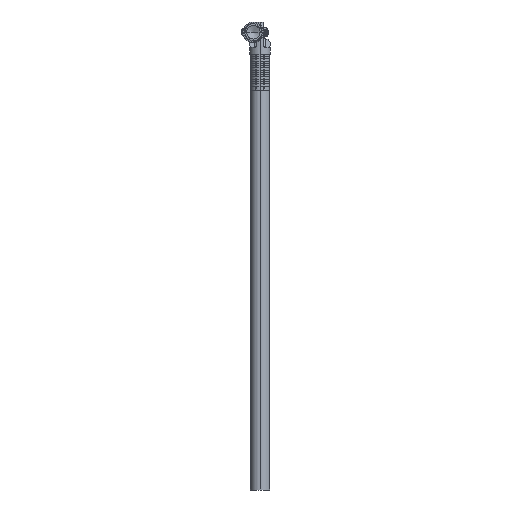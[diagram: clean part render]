
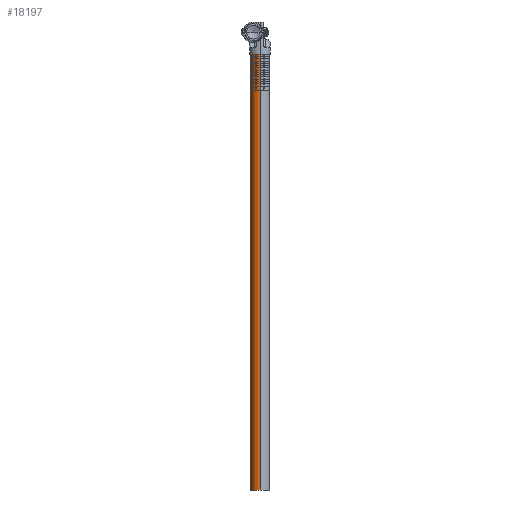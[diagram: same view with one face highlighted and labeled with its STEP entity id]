
A CAD part, left-side view. The second image highlights one B-rep face of the part: STEP entity #18197.
In plain terms, the highlighted cylindrical face has radius 13.716 mm (diameter 27.432 mm), a partial arc.
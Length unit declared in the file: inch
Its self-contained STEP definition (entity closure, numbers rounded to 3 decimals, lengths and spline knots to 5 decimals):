
#254 = CARTESIAN_POINT ( 'NONE',  ( 0., 0., 0.54 ) ) ;
#417 = DIRECTION ( 'NONE',  ( 0., 0., -1. ) ) ;
#443 = DIRECTION ( 'NONE',  ( 1., 0., 0. ) ) ;
#450 = CARTESIAN_POINT ( 'NONE',  ( 0., 0., 0. ) ) ;
#1738 = VECTOR ( 'NONE', #13916, 39.37008 ) ;
#1871 = CARTESIAN_POINT ( 'NONE',  ( 0., 0., 0.54 ) ) ;
#3181 = VERTEX_POINT ( 'NONE', #7608 ) ;
#5488 = CIRCLE ( 'NONE', #11074, 0.54 ) ;
#7118 = LINE ( 'NONE', #11035, #17057 ) ;
#7416 = DIRECTION ( 'NONE',  ( 1., 0., 0. ) ) ;
#7608 = CARTESIAN_POINT ( 'NONE',  ( 0., 0., -0.54 ) ) ;
#8226 = VERTEX_POINT ( 'NONE', #13894 ) ;
#9118 = EDGE_CURVE ( 'NONE', #3181, #10667, #5488, .T. ) ;
#9558 = DIRECTION ( 'NONE',  ( 0., 0., -1. ) ) ;
#10456 = EDGE_CURVE ( 'NONE', #8226, #15770, #14163, .T. ) ;
#10667 = VERTEX_POINT ( 'NONE', #254 ) ;
#11035 = CARTESIAN_POINT ( 'NONE',  ( 0., 0., -0.54 ) ) ;
#11074 = AXIS2_PLACEMENT_3D ( 'NONE', #450, #443, #417 ) ;
#12055 = CARTESIAN_POINT ( 'NONE',  ( -24., 0., 0.54 ) ) ;
#13065 = CYLINDRICAL_SURFACE ( 'NONE', #16094, 0.54 ) ;
#13111 = EDGE_CURVE ( 'NONE', #8226, #3181, #7118, .T. ) ;
#13743 = DIRECTION ( 'NONE',  ( 1., 0., 0. ) ) ;
#13894 = CARTESIAN_POINT ( 'NONE',  ( -24., 0., -0.54 ) ) ;
#13916 = DIRECTION ( 'NONE',  ( 1., 0., 0. ) ) ;
#14163 = CIRCLE ( 'NONE', #22070, 0.54 ) ;
#15770 = VERTEX_POINT ( 'NONE', #12055 ) ;
#15889 = ORIENTED_EDGE ( 'NONE', *, *, #9118, .F. ) ;
#16094 = AXIS2_PLACEMENT_3D ( 'NONE', #19451, #13743, #9558 ) ;
#17057 = VECTOR ( 'NONE', #20686, 39.37008 ) ;
#18197 = ADVANCED_FACE ( 'NONE', ( #19992 ), #13065, .T. ) ;
#18300 = EDGE_CURVE ( 'NONE', #15770, #10667, #22644, .T. ) ;
#18833 = ORIENTED_EDGE ( 'NONE', *, *, #10456, .T. ) ;
#19201 = CARTESIAN_POINT ( 'NONE',  ( -24., 0., 0. ) ) ;
#19451 = CARTESIAN_POINT ( 'NONE',  ( 0., 0., 0. ) ) ;
#19992 = FACE_OUTER_BOUND ( 'NONE', #23959, .T. ) ;
#20686 = DIRECTION ( 'NONE',  ( 1., 0., 0. ) ) ;
#21123 = DIRECTION ( 'NONE',  ( 0., 0., -1. ) ) ;
#22070 = AXIS2_PLACEMENT_3D ( 'NONE', #19201, #7416, #21123 ) ;
#22644 = LINE ( 'NONE', #1871, #1738 ) ;
#23151 = ORIENTED_EDGE ( 'NONE', *, *, #18300, .T. ) ;
#23959 = EDGE_LOOP ( 'NONE', ( #18833, #23151, #15889, #25013 ) ) ;
#25013 = ORIENTED_EDGE ( 'NONE', *, *, #13111, .F. ) ;
